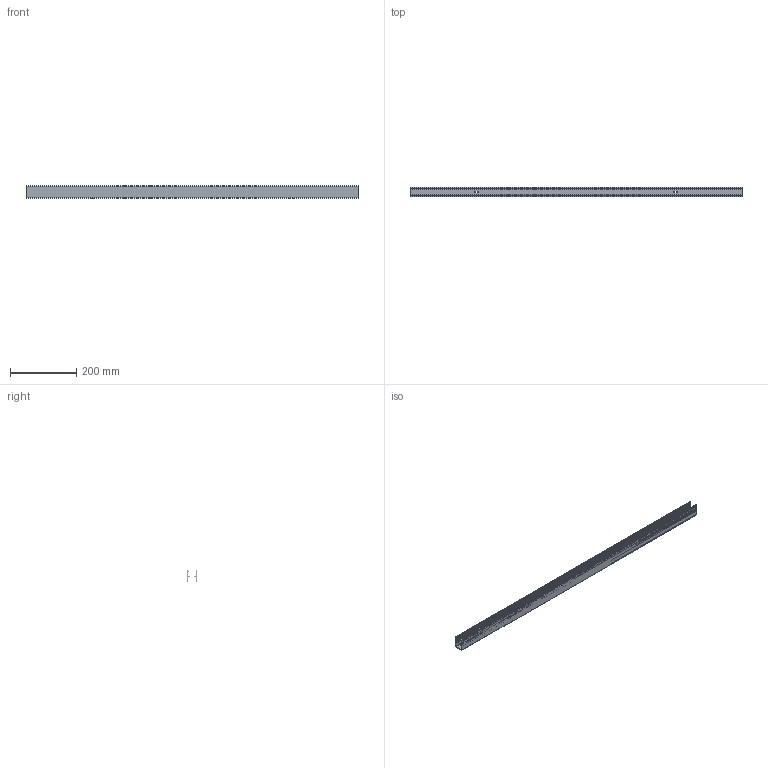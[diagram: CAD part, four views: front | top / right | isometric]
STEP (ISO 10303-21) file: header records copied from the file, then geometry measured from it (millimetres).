
FILE_DESCRIPTION(/* description */ (''),/* implementation_level */ '2;1');
FILE_NAME(/* name */ 'NF_2219_STRAIGHT_PROFILE_CABLE_DUCT_L1000_R01.step',/* time_stamp */ '2026-07-17T18:37:33+02:00',/* author */ (''),/* organization */ (''),/* preprocessor_version */ 'ST-DEVELOPER v20.1',/* originating_system */ 'Autodesk Translation Framework v15.8.0.0',/* authorisation */ '');
FILE_SCHEMA (('AUTOMOTIVE_DESIGN { 1 0 10303 214 3 1 1 }'));
Length unit declared in the file: millimetre
Products named in the file (1): 2026-07-17-18-19-27-427
Bounding box: 1000 x 27.69 x 36.38 mm (x, y, z)
Volume: 199879.3 mm3; surface area: 296114.2 mm2
Topology: 3 solids, 3 shells, 92 faces, 258 edges, 172 vertices
Faces by surface type: plane 64, cylinder 15, bspline 13
Entity records: 3722 total; most frequent: CARTESIAN_POINT 1368, ORIENTED_EDGE 516, DIRECTION 422, EDGE_CURVE 258, LINE 202, VECTOR 202, VERTEX_POINT 172, AXIS2_PLACEMENT_3D 110
